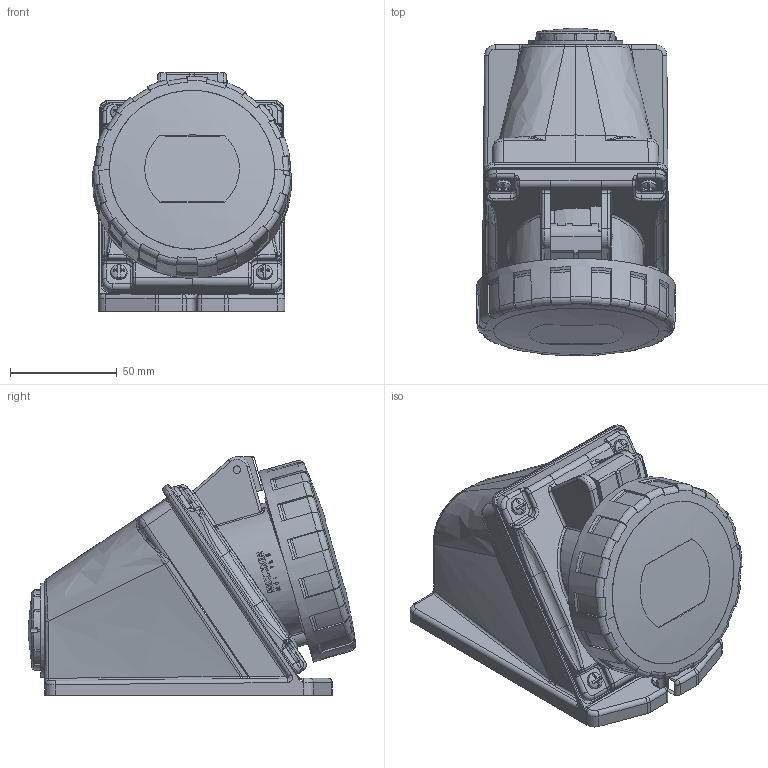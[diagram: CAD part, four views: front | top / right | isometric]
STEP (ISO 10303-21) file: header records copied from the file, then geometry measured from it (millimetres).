
FILE_DESCRIPTION(/* description */ (''),/* implementation_level */ '2;1');
FILE_NAME(/* name */ '4001943.stp',/* time_stamp */ '2017-05-09T06:29:11+02:00',/* author */ (''),/* organization */ (''),/* preprocessor_version */ 'ST-DEVELOPER v16',/* originating_system */ 'SIEMENS PLM Software NX 11.0',/* authorisation */ '');
FILE_SCHEMA (('AUTOMOTIVE_DESIGN { 1 0 10303 214 3 1 1 1 }'));
Products named in the file (1): 4001943_LINKEDEXT_jt
Bounding box: 92.96 x 153.24 x 111.74 mm (x, y, z)
Surface area: 101023 mm2 (no closed solid volume)
Topology: 0 solids, 39 shells, 830 faces, 2813 edges, 1866 vertices
Faces by surface type: bspline 302, cylinder 242, plane 156, cone 57, torus 48, sphere 21, extrusion 4
Full cylindrical faces by diameter (mm): 1.1 x2, 4 x1, 7.6 x4, 44 x1, 77.2 x1, 77.3 x1
Entity records: 48373 total; most frequent: CARTESIAN_POINT 20996, ORIENTED_EDGE 4340, DIRECTION 4103, EDGE_CURVE 2705, VERTEX_POINT 1853, AXIS2_PLACEMENT_3D 1639, EDGE_LOOP 889, PRESENTATION_STYLE_ASSIGNMENT 843
